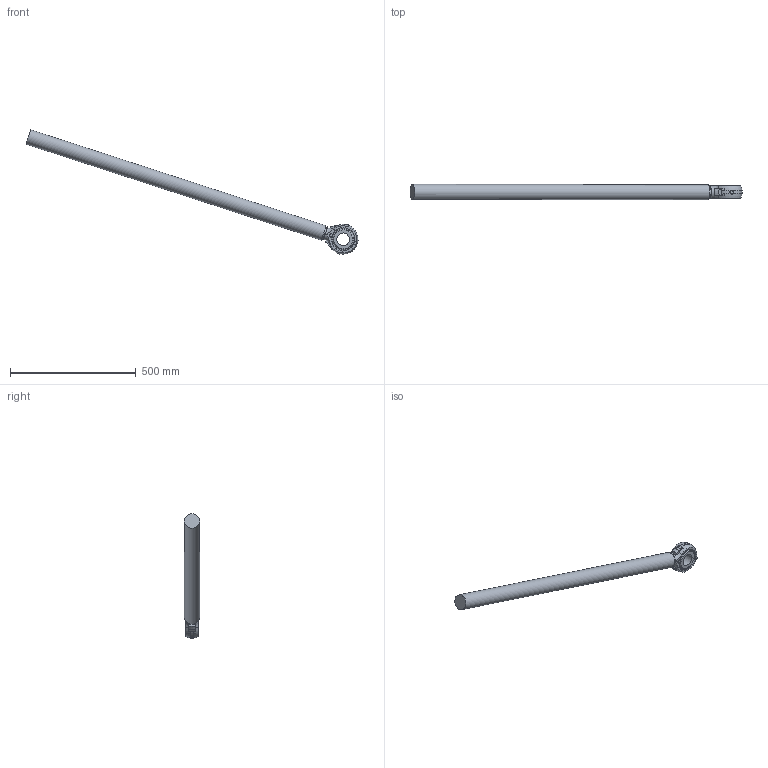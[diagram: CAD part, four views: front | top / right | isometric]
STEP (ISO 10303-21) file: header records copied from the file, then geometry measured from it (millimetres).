
FILE_DESCRIPTION (( 'STEP AP214' ), '1' );
FILE_NAME ('IRB6750S_All_OC_00_ROD_CAD.step', '2026-05-07T13:40:23', ( '' ), ( '' ), 'SwSTEP 2.0', 'SolidWorks 2024', '' );
FILE_SCHEMA (( 'AUTOMOTIVE_DESIGN' ));
Length unit declared in the file: millimetre
Products named in the file (1): IRB6750S_All_OC_00_ROD_CAD
Bounding box: 1318.63 x 60 x 494.06 mm (x, y, z)
Volume: 3956186.2 mm3; surface area: 282853.4 mm2
Topology: 1 solids, 1 shells, 62 faces, 165 edges, 107 vertices
Faces by surface type: plane 32, cylinder 18, cone 8, torus 2, sphere 2
Full cylindrical faces by diameter (mm): 12 x4, 16 x2, 48 x1, 50 x1, 55 x1, 60 x1, 63 x1, 90.1 x1
Entity records: 2235 total; most frequent: CARTESIAN_POINT 781, DIRECTION 304, ORIENTED_EDGE 276, AXIS2_PLACEMENT_3D 143, EDGE_CURVE 138, VERTEX_POINT 96, EDGE_LOOP 86, CIRCLE 80
